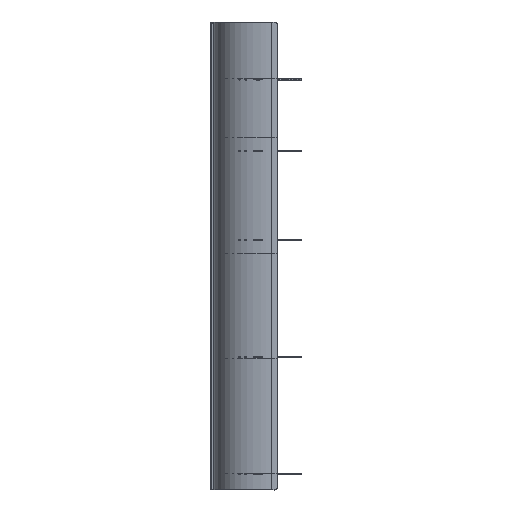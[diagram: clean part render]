
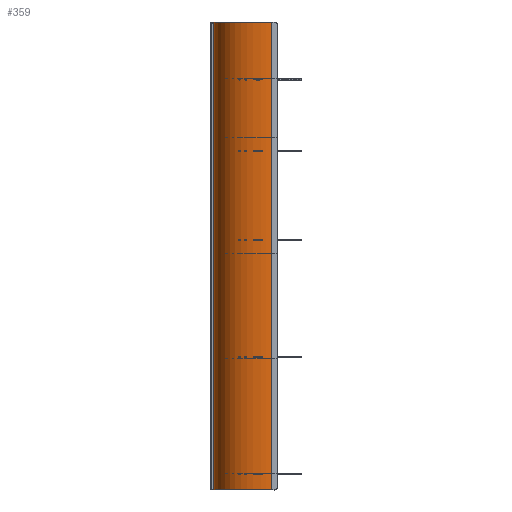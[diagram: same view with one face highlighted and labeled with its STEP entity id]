
A CAD part, left-side view. The second image highlights one B-rep face of the part: STEP entity #359.
In plain terms, the highlighted free-form (B-spline) face has degree [3, 1] with [4, 2] control points.
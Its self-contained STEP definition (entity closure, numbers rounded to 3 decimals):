
#359=ADVANCED_FACE('',(#823),#6396,.T.);
#823=FACE_OUTER_BOUND('',#1297,.T.);
#1297=EDGE_LOOP('',(#2766,#2767,#2768,#2769));
#2766=ORIENTED_EDGE('',*,*,#4150,.F.);
#2767=ORIENTED_EDGE('',*,*,#4154,.T.);
#2768=ORIENTED_EDGE('',*,*,#4136,.T.);
#2769=ORIENTED_EDGE('',*,*,#4153,.F.);
#4136=EDGE_CURVE('',#5916,#5918,#5381,.T.);
#4150=EDGE_CURVE('',#5924,#5925,#5387,.T.);
#4153=EDGE_CURVE('',#5925,#5918,#5388,.T.);
#4154=EDGE_CURVE('',#5924,#5916,#5389,.T.);
#5381=B_SPLINE_CURVE_WITH_KNOTS('',1,(#27313,#27314),.UNSPECIFIED.,.F.,
 .F.,(2,2),(0.5,1599.5),.UNSPECIFIED.);
#5387=B_SPLINE_CURVE_WITH_KNOTS('',1,(#27353,#27354),.UNSPECIFIED.,.F.,
 .F.,(2,2),(0.5,1599.5),.UNSPECIFIED.);
#5388=B_SPLINE_CURVE_WITH_KNOTS('',3,(#27359,#27360,#27361,#27362),
 .UNSPECIFIED.,.F.,.F.,(4,4),(0.,320.249),.UNSPECIFIED.);
#5389=B_SPLINE_CURVE_WITH_KNOTS('',3,(#27363,#27364,#27365,#27366),
 .UNSPECIFIED.,.F.,.F.,(4,4),(0.,320.249),.UNSPECIFIED.);
#5916=VERTEX_POINT('',#27223);
#5918=VERTEX_POINT('',#27225);
#5924=VERTEX_POINT('',#27231);
#5925=VERTEX_POINT('',#27232);
#6396=B_SPLINE_SURFACE_WITH_KNOTS('',3,1,((#24149,#24150),(#24151,#24152),
(#24153,#24154),(#24155,#24156)),.UNSPECIFIED.,.F.,.F.,.F.,(4,4),(2,2),
(-168.102,232.5),(0.,1600.),.UNSPECIFIED.);
#24149=CARTESIAN_POINT('',(-481.,177.,100.));
#24150=CARTESIAN_POINT('',(-481.,177.,1700.));
#24151=CARTESIAN_POINT('',(-664.765,177.,100.));
#24152=CARTESIAN_POINT('',(-664.765,177.,1700.));
#24153=CARTESIAN_POINT('',(-681.,44.,100.));
#24154=CARTESIAN_POINT('',(-681.,44.,1700.));
#24155=CARTESIAN_POINT('',(-681.,-20.,100.));
#24156=CARTESIAN_POINT('',(-681.,-20.,1700.));
#27223=CARTESIAN_POINT('',(-681.,-20.,100.5));
#27225=CARTESIAN_POINT('',(-681.,-20.,1699.5));
#27231=CARTESIAN_POINT('',(-481.,177.,100.5));
#27232=CARTESIAN_POINT('',(-481.,177.,1699.5));
#27313=CARTESIAN_POINT('',(-681.,-20.,100.5));
#27314=CARTESIAN_POINT('',(-681.,-20.,1699.5));
#27353=CARTESIAN_POINT('',(-481.,177.,100.5));
#27354=CARTESIAN_POINT('',(-481.,177.,1699.5));
#27359=CARTESIAN_POINT('',(-481.,177.,1699.5));
#27360=CARTESIAN_POINT('',(-664.765,177.,1699.5));
#27361=CARTESIAN_POINT('',(-681.,44.,1699.5));
#27362=CARTESIAN_POINT('',(-681.,-20.,1699.5));
#27363=CARTESIAN_POINT('',(-481.,177.,100.5));
#27364=CARTESIAN_POINT('',(-664.765,177.,100.5));
#27365=CARTESIAN_POINT('',(-681.,44.,100.5));
#27366=CARTESIAN_POINT('',(-681.,-20.,100.5));
